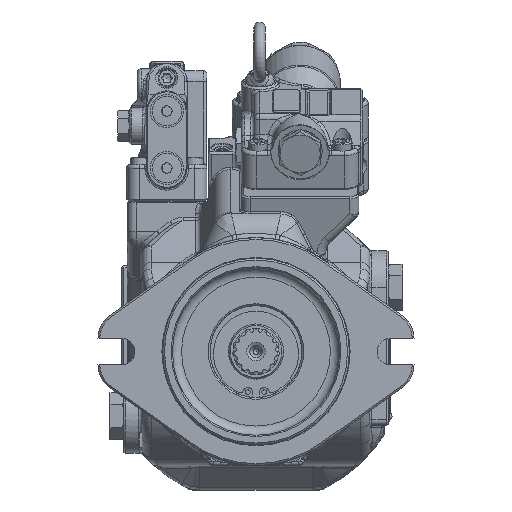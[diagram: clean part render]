
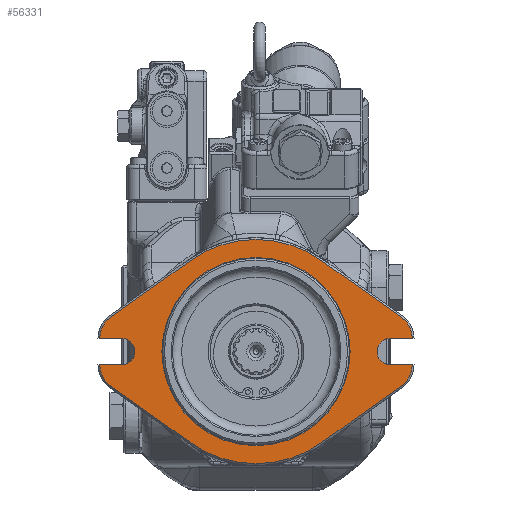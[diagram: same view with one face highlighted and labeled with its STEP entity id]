
A CAD part, top view. The second image highlights one B-rep face of the part: STEP entity #56331.
In plain terms, the highlighted planar face has unit normal (0, 0, 1).
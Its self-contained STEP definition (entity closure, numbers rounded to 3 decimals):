
#3616=FACE_BOUND('',#10440,.T.);
#4658=PLANE('',#60667);
#6869=FACE_OUTER_BOUND('',#10439,.T.);
#10439=EDGE_LOOP('',(#45134,#45135,#45136,#45137,#45138,#45139,#45140,#45141,
#45142,#45143,#45144,#45145,#45146,#45147,#45148,#45149,#45150,#45151,#45152,
#45153));
#10440=EDGE_LOOP('',(#45154));
#13458=CIRCLE('',#60637,7.15);
#13468=CIRCLE('',#60665,7.15);
#13469=CIRCLE('',#60668,14.);
#13470=CIRCLE('',#60669,61.);
#13471=CIRCLE('',#60670,14.);
#13472=CIRCLE('',#60671,14.);
#13473=CIRCLE('',#60672,61.);
#13474=CIRCLE('',#60673,14.);
#13475=CIRCLE('',#60674,51.2);
#17205=LINE('',#95006,#21260);
#17217=LINE('',#95036,#21272);
#17226=LINE('',#95097,#21281);
#17241=LINE('',#95146,#21296);
#17248=LINE('',#95161,#21303);
#17249=LINE('',#95164,#21304);
#17250=LINE('',#95168,#21305);
#17251=LINE('',#95172,#21306);
#17252=LINE('',#95175,#21307);
#17253=LINE('',#95177,#21308);
#17254=LINE('',#95181,#21309);
#17255=LINE('',#95185,#21310);
#21260=VECTOR('',#70730,10.);
#21272=VECTOR('',#70756,10.);
#21281=VECTOR('',#70785,10.);
#21296=VECTOR('',#70830,10.);
#21303=VECTOR('',#70843,10.);
#21304=VECTOR('',#70846,10.);
#21305=VECTOR('',#70849,10.);
#21306=VECTOR('',#70852,10.);
#21307=VECTOR('',#70855,10.);
#21308=VECTOR('',#70856,10.);
#21309=VECTOR('',#70859,10.);
#21310=VECTOR('',#70862,10.);
#25750=VERTEX_POINT('',#95003);
#25751=VERTEX_POINT('',#95005);
#25759=VERTEX_POINT('',#95026);
#25762=VERTEX_POINT('',#95034);
#25772=VERTEX_POINT('',#95096);
#25790=VERTEX_POINT('',#95143);
#25791=VERTEX_POINT('',#95145);
#25793=VERTEX_POINT('',#95151);
#25796=VERTEX_POINT('',#95159);
#25797=VERTEX_POINT('',#95163);
#25798=VERTEX_POINT('',#95165);
#25799=VERTEX_POINT('',#95167);
#25800=VERTEX_POINT('',#95169);
#25801=VERTEX_POINT('',#95171);
#25802=VERTEX_POINT('',#95173);
#25803=VERTEX_POINT('',#95176);
#25804=VERTEX_POINT('',#95178);
#25805=VERTEX_POINT('',#95180);
#25806=VERTEX_POINT('',#95182);
#25807=VERTEX_POINT('',#95184);
#25808=VERTEX_POINT('',#95187);
#32510=EDGE_CURVE('',#25751,#25750,#17205,.T.);
#32522=EDGE_CURVE('',#25750,#25759,#13458,.T.);
#32526=EDGE_CURVE('',#25759,#25762,#17217,.T.);
#32541=EDGE_CURVE('',#25751,#25772,#17226,.T.);
#32565=EDGE_CURVE('',#25791,#25790,#17241,.T.);
#32569=EDGE_CURVE('',#25790,#25793,#13468,.T.);
#32573=EDGE_CURVE('',#25793,#25796,#17248,.T.);
#32574=EDGE_CURVE('',#25797,#25762,#17249,.T.);
#32575=EDGE_CURVE('',#25798,#25797,#13469,.T.);
#32576=EDGE_CURVE('',#25799,#25798,#17250,.T.);
#32577=EDGE_CURVE('',#25800,#25799,#13470,.T.);
#32578=EDGE_CURVE('',#25801,#25800,#17251,.T.);
#32579=EDGE_CURVE('',#25802,#25801,#13471,.T.);
#32580=EDGE_CURVE('',#25791,#25802,#17252,.T.);
#32581=EDGE_CURVE('',#25803,#25796,#17253,.T.);
#32582=EDGE_CURVE('',#25804,#25803,#13472,.T.);
#32583=EDGE_CURVE('',#25805,#25804,#17254,.T.);
#32584=EDGE_CURVE('',#25806,#25805,#13473,.T.);
#32585=EDGE_CURVE('',#25807,#25806,#17255,.T.);
#32586=EDGE_CURVE('',#25772,#25807,#13474,.T.);
#32587=EDGE_CURVE('',#25808,#25808,#13475,.T.);
#45134=ORIENTED_EDGE('',*,*,#32526,.T.);
#45135=ORIENTED_EDGE('',*,*,#32574,.F.);
#45136=ORIENTED_EDGE('',*,*,#32575,.F.);
#45137=ORIENTED_EDGE('',*,*,#32576,.F.);
#45138=ORIENTED_EDGE('',*,*,#32577,.F.);
#45139=ORIENTED_EDGE('',*,*,#32578,.F.);
#45140=ORIENTED_EDGE('',*,*,#32579,.F.);
#45141=ORIENTED_EDGE('',*,*,#32580,.F.);
#45142=ORIENTED_EDGE('',*,*,#32565,.T.);
#45143=ORIENTED_EDGE('',*,*,#32569,.T.);
#45144=ORIENTED_EDGE('',*,*,#32573,.T.);
#45145=ORIENTED_EDGE('',*,*,#32581,.F.);
#45146=ORIENTED_EDGE('',*,*,#32582,.F.);
#45147=ORIENTED_EDGE('',*,*,#32583,.F.);
#45148=ORIENTED_EDGE('',*,*,#32584,.F.);
#45149=ORIENTED_EDGE('',*,*,#32585,.F.);
#45150=ORIENTED_EDGE('',*,*,#32586,.F.);
#45151=ORIENTED_EDGE('',*,*,#32541,.F.);
#45152=ORIENTED_EDGE('',*,*,#32510,.T.);
#45153=ORIENTED_EDGE('',*,*,#32522,.T.);
#45154=ORIENTED_EDGE('',*,*,#32587,.F.);
#56331=ADVANCED_FACE('',(#6869,#3616),#4658,.F.);
#60637=AXIS2_PLACEMENT_3D('',#95028,#70749,#70750);
#60665=AXIS2_PLACEMENT_3D('',#95153,#70836,#70837);
#60667=AXIS2_PLACEMENT_3D('',#95162,#70844,#70845);
#60668=AXIS2_PLACEMENT_3D('',#95166,#70847,#70848);
#60669=AXIS2_PLACEMENT_3D('',#95170,#70850,#70851);
#60670=AXIS2_PLACEMENT_3D('',#95174,#70853,#70854);
#60671=AXIS2_PLACEMENT_3D('',#95179,#70857,#70858);
#60672=AXIS2_PLACEMENT_3D('',#95183,#70860,#70861);
#60673=AXIS2_PLACEMENT_3D('',#95186,#70863,#70864);
#60674=AXIS2_PLACEMENT_3D('',#95188,#70865,#70866);
#70730=DIRECTION('',(-1.,0.,0.));
#70749=DIRECTION('center_axis',(0.,0.,-1.));
#70750=DIRECTION('ref_axis',(0.,-1.,0.));
#70756=DIRECTION('',(1.,0.,0.));
#70785=DIRECTION('',(0.,-1.,0.));
#70830=DIRECTION('',(1.,0.,0.));
#70836=DIRECTION('center_axis',(0.,0.,-1.));
#70837=DIRECTION('ref_axis',(0.,-1.,0.));
#70843=DIRECTION('',(-1.,0.,0.));
#70844=DIRECTION('center_axis',(0.,0.,-1.));
#70845=DIRECTION('ref_axis',(0.,1.,0.));
#70846=DIRECTION('',(0.,-1.,0.));
#70847=DIRECTION('center_axis',(0.,0.,-1.));
#70848=DIRECTION('ref_axis',(0.888,0.459,0.));
#70849=DIRECTION('',(0.816,-0.579,0.));
#70850=DIRECTION('center_axis',(0.,0.,-1.));
#70851=DIRECTION('ref_axis',(0.,1.,0.));
#70852=DIRECTION('',(0.816,0.579,0.));
#70853=DIRECTION('center_axis',(0.,0.,-1.));
#70854=DIRECTION('ref_axis',(-0.888,0.459,0.));
#70855=DIRECTION('',(0.,1.,0.));
#70856=DIRECTION('',(0.,1.,0.));
#70857=DIRECTION('center_axis',(0.,0.,-1.));
#70858=DIRECTION('ref_axis',(-0.888,-0.459,0.));
#70859=DIRECTION('',(-0.816,0.579,0.));
#70860=DIRECTION('center_axis',(0.,0.,-1.));
#70861=DIRECTION('ref_axis',(0.,-1.,0.));
#70862=DIRECTION('',(-0.816,-0.579,0.));
#70863=DIRECTION('center_axis',(0.,0.,-1.));
#70864=DIRECTION('ref_axis',(0.888,-0.459,0.));
#70865=DIRECTION('center_axis',(0.,0.,1.));
#70866=DIRECTION('ref_axis',(0.,-1.,0.));
#95003=CARTESIAN_POINT('',(137.504,28.831,94.252));
#95005=CARTESIAN_POINT('',(149.504,28.831,94.252));
#95006=CARTESIAN_POINT('',(119.136,28.831,94.252));
#95026=CARTESIAN_POINT('',(137.504,43.131,94.252));
#95028=CARTESIAN_POINT('Origin',(137.504,35.981,94.252));
#95034=CARTESIAN_POINT('',(149.504,43.131,94.252));
#95036=CARTESIAN_POINT('',(101.004,43.131,94.252));
#95096=CARTESIAN_POINT('',(149.504,28.73,94.252));
#95097=CARTESIAN_POINT('',(149.504,92.022,94.252));
#95143=CARTESIAN_POINT('',(-8.496,43.131,94.252));
#95145=CARTESIAN_POINT('',(-20.496,43.131,94.252));
#95146=CARTESIAN_POINT('',(28.004,43.131,94.252));
#95151=CARTESIAN_POINT('',(-8.496,28.831,94.252));
#95153=CARTESIAN_POINT('Origin',(-8.496,35.981,94.252));
#95159=CARTESIAN_POINT('',(-20.496,28.831,94.252));
#95161=CARTESIAN_POINT('',(9.871,28.831,94.252));
#95162=CARTESIAN_POINT('Origin',(64.504,126.563,94.252));
#95163=CARTESIAN_POINT('',(149.504,43.232,94.252));
#95164=CARTESIAN_POINT('',(149.504,92.022,94.252));
#95165=CARTESIAN_POINT('',(143.605,54.65,94.252));
#95166=CARTESIAN_POINT('Origin',(135.504,43.232,94.252));
#95167=CARTESIAN_POINT('',(99.803,85.73,94.252));
#95168=CARTESIAN_POINT('',(84.116,96.861,94.252));
#95169=CARTESIAN_POINT('',(29.204,85.73,94.252));
#95170=CARTESIAN_POINT('Origin',(64.504,35.981,94.252));
#95171=CARTESIAN_POINT('',(-14.598,54.65,94.252));
#95172=CARTESIAN_POINT('',(57.422,105.752,94.252));
#95173=CARTESIAN_POINT('',(-20.496,43.232,94.252));
#95174=CARTESIAN_POINT('Origin',(-6.496,43.232,94.252));
#95175=CARTESIAN_POINT('',(-20.496,99.522,94.252));
#95176=CARTESIAN_POINT('',(-20.496,28.73,94.252));
#95177=CARTESIAN_POINT('',(-20.496,99.522,94.252));
#95178=CARTESIAN_POINT('',(-14.598,17.313,94.252));
#95179=CARTESIAN_POINT('Origin',(-6.496,28.73,94.252));
#95180=CARTESIAN_POINT('',(29.204,-13.767,94.252));
#95181=CARTESIAN_POINT('',(-11.544,15.146,94.252));
#95182=CARTESIAN_POINT('',(99.803,-13.767,94.252));
#95183=CARTESIAN_POINT('Origin',(64.504,35.981,94.252));
#95184=CARTESIAN_POINT('',(143.605,17.313,94.252));
#95185=CARTESIAN_POINT('',(128.021,6.255,94.252));
#95186=CARTESIAN_POINT('Origin',(135.504,28.73,94.252));
#95187=CARTESIAN_POINT('',(64.504,87.181,94.252));
#95188=CARTESIAN_POINT('Origin',(64.504,35.981,94.252));
